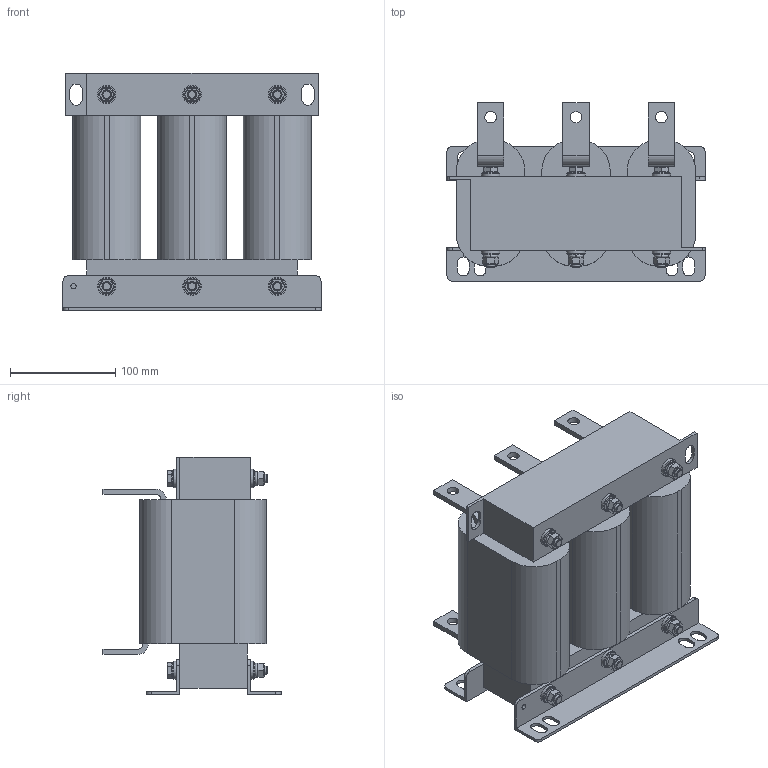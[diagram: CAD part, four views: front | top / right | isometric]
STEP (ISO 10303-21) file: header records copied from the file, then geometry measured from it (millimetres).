
FILE_DESCRIPTION(('STEP AP203'), '1');
FILE_NAME('栖闉罻 _ IMF-110_210-4', '', ('UNSPECIFIED'), ('UNSPECIFIED'), 'ASCON STEP Converter 1.6', 'ASCON Math Kernel', '');
FILE_SCHEMA(('CONFIG_CONTROL_DESIGN'));
Length unit declared in the file: millimetre
Products named in the file (12): IMF-110_210-4
Assembly tree (55 placements, depth 2):
  IMF-110_210-4
    IMF-110_210-4
    IMF-110_210-4  x2
    IMF-110_210-4  x3
    IMF-110_210-4  x3
    IMF-110_210-4  x3
    IMF-110_210-4
    IMF-110_210-4  x12
    IMF-110_210-4  x12
    IMF-110_210-4  x6
    IMF-110_210-4  x6
    IMF-110_210-4  x6
Bounding box: 245 x 169 x 225 mm (x, y, z)
Volume: 4136971.3 mm3; surface area: 399672.7 mm2
Topology: 55 solids, 55 shells, 586 faces, 1248 edges, 778 vertices
Faces by surface type: plane 424, cylinder 132, cone 18, torus 12
Full cylindrical faces by diameter (mm): 5 x2, 8 x48, 11 x6, 15.6 x12, 17.5 x12
Entity records: 6362 total; most frequent: CARTESIAN_POINT 1114, DIRECTION 832, ORIENTED_EDGE 666, EDGE_CURVE 333, AXIS2_PLACEMENT_3D 297, LINE 238, VECTOR 238, VERTEX_POINT 227
